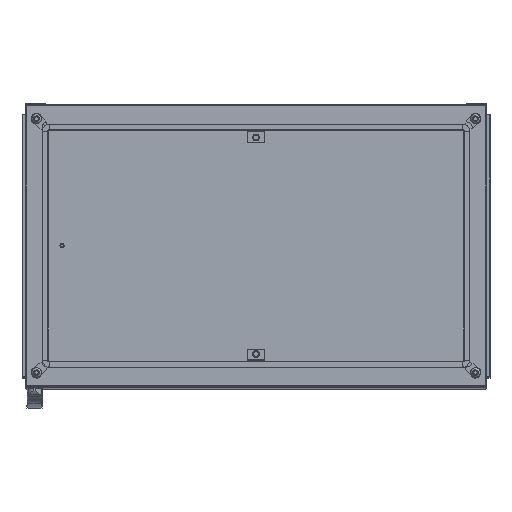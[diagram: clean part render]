
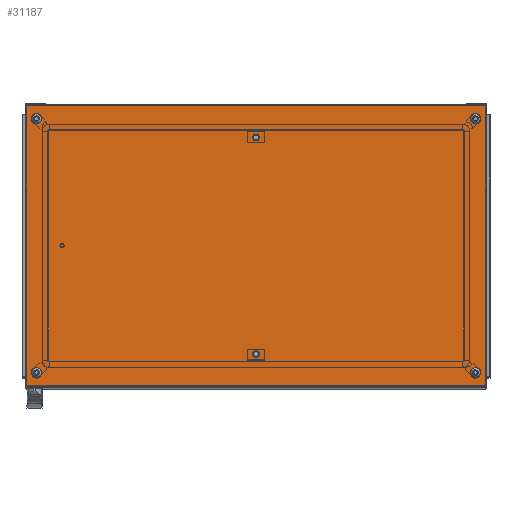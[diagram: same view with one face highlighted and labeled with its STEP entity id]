
A CAD part, top view. The second image highlights one B-rep face of the part: STEP entity #31187.
In plain terms, the highlighted planar face has unit normal (0, 0, 1).
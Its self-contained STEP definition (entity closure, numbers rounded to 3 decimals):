
#1500=CIRCLE('',#33461,7.321);
#1501=CIRCLE('',#33462,7.321);
#1502=CIRCLE('',#33463,6.);
#1503=CIRCLE('',#33464,6.);
#1504=CIRCLE('',#33465,6.);
#1505=CIRCLE('',#33466,6.);
#5539=ORIENTED_EDGE('',*,*,#13113,.F.);
#5540=ORIENTED_EDGE('',*,*,#13114,.F.);
#5541=ORIENTED_EDGE('',*,*,#13115,.F.);
#5542=ORIENTED_EDGE('',*,*,#13116,.F.);
#5543=ORIENTED_EDGE('',*,*,#13117,.F.);
#5544=ORIENTED_EDGE('',*,*,#13118,.F.);
#5545=ORIENTED_EDGE('',*,*,#13102,.T.);
#5546=ORIENTED_EDGE('',*,*,#13110,.T.);
#5547=ORIENTED_EDGE('',*,*,#13073,.F.);
#5548=ORIENTED_EDGE('',*,*,#13119,.F.);
#13073=EDGE_CURVE('',#17095,#17096,#20210,.T.);
#13102=EDGE_CURVE('',#17117,#17116,#20216,.T.);
#13110=EDGE_CURVE('',#17116,#17096,#20221,.T.);
#13113=EDGE_CURVE('',#17118,#17118,#1500,.T.);
#13114=EDGE_CURVE('',#17119,#17119,#1501,.T.);
#13115=EDGE_CURVE('',#17120,#17120,#1502,.T.);
#13116=EDGE_CURVE('',#17121,#17121,#1503,.T.);
#13117=EDGE_CURVE('',#17122,#17122,#1504,.T.);
#13118=EDGE_CURVE('',#17123,#17123,#1505,.T.);
#13119=EDGE_CURVE('',#17117,#17095,#20224,.T.);
#17095=VERTEX_POINT('',#48507);
#17096=VERTEX_POINT('',#48509);
#17116=VERTEX_POINT('',#48583);
#17117=VERTEX_POINT('',#48585);
#17118=VERTEX_POINT('',#48602);
#17119=VERTEX_POINT('',#48604);
#17120=VERTEX_POINT('',#48606);
#17121=VERTEX_POINT('',#48608);
#17122=VERTEX_POINT('',#48610);
#17123=VERTEX_POINT('',#48612);
#20210=LINE('',#48508,#22917);
#20216=LINE('',#48584,#22923);
#20221=LINE('',#48596,#22928);
#20224=LINE('',#48613,#22931);
#22917=VECTOR('',#38793,1000.);
#22923=VECTOR('',#38847,1000.);
#22928=VECTOR('',#38864,1000.);
#22931=VECTOR('',#38883,1000.);
#25294=EDGE_LOOP('',(#5539));
#25295=EDGE_LOOP('',(#5540));
#25296=EDGE_LOOP('',(#5541));
#25297=EDGE_LOOP('',(#5542));
#25298=EDGE_LOOP('',(#5543));
#25299=EDGE_LOOP('',(#5544));
#25300=EDGE_LOOP('',(#5545,#5546,#5547,#5548));
#27892=FACE_BOUND('',#25294,.T.);
#27893=FACE_BOUND('',#25295,.T.);
#27894=FACE_BOUND('',#25296,.T.);
#27895=FACE_BOUND('',#25297,.T.);
#27896=FACE_BOUND('',#25298,.T.);
#27897=FACE_BOUND('',#25299,.T.);
#27898=FACE_BOUND('',#25300,.T.);
#30143=PLANE('',#33460);
#31187=ADVANCED_FACE('',(#27892,#27893,#27894,#27895,#27896,#27897,#27898),
#30143,.T.);
#33460=AXIS2_PLACEMENT_3D('',#48600,#38869,#38870);
#33461=AXIS2_PLACEMENT_3D('',#48601,#38871,#38872);
#33462=AXIS2_PLACEMENT_3D('',#48603,#38873,#38874);
#33463=AXIS2_PLACEMENT_3D('',#48605,#38875,#38876);
#33464=AXIS2_PLACEMENT_3D('',#48607,#38877,#38878);
#33465=AXIS2_PLACEMENT_3D('',#48609,#38879,#38880);
#33466=AXIS2_PLACEMENT_3D('',#48611,#38881,#38882);
#38793=DIRECTION('',(-1.,0.,0.));
#38847=DIRECTION('',(-1.,0.,0.));
#38864=DIRECTION('',(0.,-1.,0.));
#38869=DIRECTION('',(0.,0.,1.));
#38870=DIRECTION('',(1.,0.,0.));
#38871=DIRECTION('',(0.,0.,1.));
#38872=DIRECTION('',(1.,0.,0.));
#38873=DIRECTION('',(0.,0.,1.));
#38874=DIRECTION('',(1.,0.,0.));
#38875=DIRECTION('',(0.,0.,1.));
#38876=DIRECTION('',(1.,0.,0.));
#38877=DIRECTION('',(0.,0.,1.));
#38878=DIRECTION('',(1.,0.,0.));
#38879=DIRECTION('',(0.,0.,1.));
#38880=DIRECTION('',(1.,0.,0.));
#38881=DIRECTION('',(0.,0.,1.));
#38882=DIRECTION('',(1.,0.,0.));
#38883=DIRECTION('',(0.,-1.,0.));
#48507=CARTESIAN_POINT('',(496.5,-302.5,20.));
#48508=CARTESIAN_POINT('',(500.,-302.5,20.));
#48509=CARTESIAN_POINT('',(-496.5,-302.5,20.));
#48583=CARTESIAN_POINT('',(-496.5,302.5,20.));
#48584=CARTESIAN_POINT('',(500.,302.5,20.));
#48585=CARTESIAN_POINT('',(496.5,302.5,20.));
#48596=CARTESIAN_POINT('',(-496.5,305.5,20.));
#48600=CARTESIAN_POINT('',(-496.5,-302.5,20.));
#48601=CARTESIAN_POINT('',(0.,-234.,20.));
#48602=CARTESIAN_POINT('',(7.321,-234.,20.));
#48603=CARTESIAN_POINT('',(0.,234.,20.));
#48604=CARTESIAN_POINT('',(7.321,234.,20.));
#48605=CARTESIAN_POINT('',(474.5,-274.5,20.));
#48606=CARTESIAN_POINT('',(480.5,-274.5,20.));
#48607=CARTESIAN_POINT('',(-474.5,274.5,20.));
#48608=CARTESIAN_POINT('',(-468.5,274.5,20.));
#48609=CARTESIAN_POINT('',(474.5,274.5,20.));
#48610=CARTESIAN_POINT('',(480.5,274.5,20.));
#48611=CARTESIAN_POINT('',(-474.5,-274.5,20.));
#48612=CARTESIAN_POINT('',(-468.5,-274.5,20.));
#48613=CARTESIAN_POINT('',(496.5,305.5,20.));
